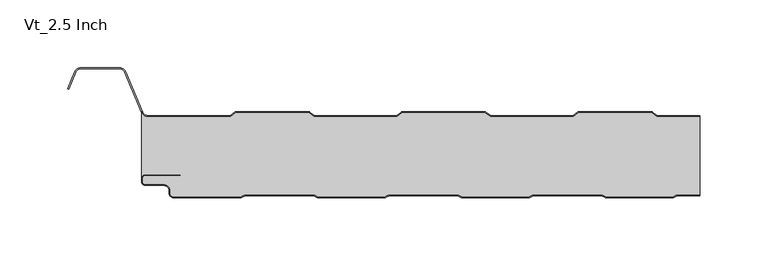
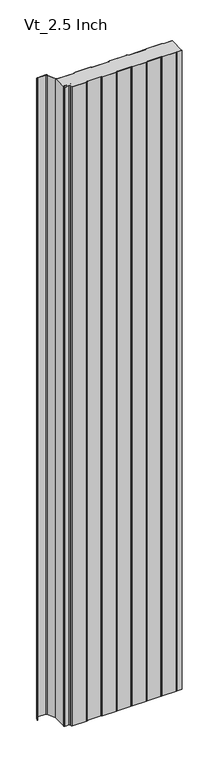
"""IFC4 building model written with IfcOpenShell, lengths in millimetres: plate geometry, AWIP_R18_CP_HR3_Vt_Roof Panel : Vt_2.5 Inch."""

from ifc_helpers import new_model, si_unit, point, frame, frame_2d, origin, origin_with_axes, place, context, project, spatial, polyline, circle_curve, trimmed, segment, composite_curve, outline, extrude, source, transform, mapped, element, save
from ifc_brep_helpers import plane_surface, cylinder_surface, revolved_surface, advanced_brep


def vt_2_5_inch_4b6529dc(model_context):
    return source(origin(), model_context, "Body", "SolidModel", [
        advanced_brep(
        [(221.9999998, 59.9158806, 2400.0), (221.9999998, 2.3, 2400.0), (221.9999998, 2.3, 0.0), (221.9999998, 59.9158806, 0.0), (-186.7572295, 59.9158805, 2400.0), (-191.4327566, 63.6298575, 2400.0), (-191.4327566, 14.0, 2400.0), (-188.41581, 17.0, 2400.0), (-162.474768, 17.0, 2400.0), (-162.474768, 16.2, 2400.0), (-188.41581, 16.2, 2400.0), (-190.61581, 14.0, 2400.0), (-190.61581, 12.0, 2400.0), (-188.41581, 9.8, 2400.0), (-174.8999998, 9.8, 2400.0), (-170.0999998, 5.0, 2400.0), (-170.0999998, 3.0, 2400.0), (-167.8999998, 0.8, 2400.0), (-118.1426773, 0.8, 2400.0), (-117.190856, 0.9968123, 2400.0), (-114.8007568, 2.0293831, 2400.0), (-113.4920024, 2.3, 2400.0), (-65.1079973, 2.3, 2400.0), (-63.7992429, 2.0293831, 2400.0), (-61.4091437, 0.9968123, 2400.0), (-60.4573224, 0.8, 2400.0), (-11.5426773, 0.8, 2400.0), (-10.590856, 0.9968123, 2400.0), (-8.2007568, 2.0293831, 2400.0), (-6.8920024, 2.3, 2400.0), (41.4920027, 2.3, 2400.0), (42.8007571, 2.0293831, 2400.0), (45.1908563, 0.9968123, 2400.0), (46.1426776, 0.8, 2400.0), (95.0573227, 0.8, 2400.0), (96.009144, 0.9968123, 2400.0), (98.3992432, 2.0293831, 2400.0), (99.7079976, 2.3, 2400.0), (148.0920027, 2.3, 2400.0), (149.4007571, 2.0293831, 2400.0), (151.7908563, 0.9968123, 2400.0), (152.7426776, 0.8, 2400.0), (201.6573227, 0.8, 2400.0), (202.609144, 0.9968123, 2400.0), (204.9992432, 2.0293831, 2400.0), (206.3079976, 2.3, 2400.0), (190.5265971, 59.9158806, 2400.0), (189.7652072, 60.1621797, 2400.0), (186.2530727, 62.7000001, 2400.0), (132.0501916, 62.7000001, 2400.0), (128.5380576, 60.1621798, 2400.0), (127.7766677, 59.9158806, 2400.0), (67.2805372, 59.9158806, 2400.0), (66.5191475, 60.1621797, 2400.0), (63.007013, 62.7000001, 2400.0), (1.5462671, 62.7000001, 2400.0), (-1.9658675, 60.1621797, 2400.0), (-2.7272574, 59.9158805, 2400.0), (-63.2233836, 59.9158805, 2400.0), (-63.9847734, 60.1621797, 2400.0), (-67.4969079, 62.7, 2400.0), (-121.6997882, 62.7, 2400.0), (-125.2119228, 60.1621797, 2400.0), (-125.9733126, 59.9158805, 2400.0), (-186.7572295, 59.9158805, 0.0), (-125.9733126, 59.9158805, 0.0), (-125.2119228, 60.1621797, 0.0), (-121.6997882, 62.7, 0.0), (-67.4969079, 62.7, 0.0), (-63.9847734, 60.1621797, 0.0), (-63.2233836, 59.9158805, 0.0), (-2.7272574, 59.9158805, 0.0), (-1.9658675, 60.1621797, 0.0), (1.5462671, 62.7000001, 0.0), (63.007013, 62.7000001, 0.0), (66.5191475, 60.1621797, 0.0), (67.2805372, 59.9158806, 0.0), (127.7766677, 59.9158806, 0.0), (128.5380576, 60.1621798, 0.0), (132.0501916, 62.7000001, 0.0), (186.2530727, 62.7000001, 0.0), (189.7652072, 60.1621797, 0.0), (190.5265971, 59.9158806, 0.0), (206.3079976, 2.3, 0.0), (204.9992432, 2.0293831, 0.0), (202.609144, 0.9968123, 0.0), (201.6573227, 0.8, 0.0), (152.7426776, 0.8, 0.0), (151.7908563, 0.9968123, 0.0), (149.4007571, 2.0293831, 0.0), (148.0920027, 2.3, 0.0), (99.7079976, 2.3, 0.0), (98.3992432, 2.0293831, 0.0), (96.009144, 0.9968123, 0.0), (95.0573227, 0.8, 0.0), (46.1426776, 0.8, 0.0), (45.1908563, 0.9968123, 0.0), (42.8007571, 2.0293831, 0.0), (41.4920027, 2.3, 0.0), (-6.8920024, 2.3, 0.0), (-8.2007568, 2.0293831, 0.0), (-10.590856, 0.9968123, 0.0), (-11.5426773, 0.8, 0.0), (-60.4573224, 0.8, 0.0), (-61.4091437, 0.9968123, 0.0), (-63.7992429, 2.0293831, 0.0), (-65.1079973, 2.3, 0.0), (-113.4920024, 2.3, 0.0), (-114.8007568, 2.0293831, 0.0), (-117.190856, 0.9968123, 0.0), (-118.1426773, 0.8, 0.0), (-167.8999998, 0.8, 0.0), (-170.0999998, 3.0, 0.0), (-170.0999998, 5.0, 0.0), (-174.8999998, 9.8, 0.0), (-188.41581, 9.8, 0.0), (-190.61581, 12.0, 0.0), (-190.61581, 14.0, 0.0), (-188.41581, 16.2, 0.0), (-162.474768, 16.2, 0.0), (-162.474768, 17.0, 0.0), (-188.41581, 17.0, 0.0), (-191.41581, 14.0, 0.0), (-191.4327566, 63.6298575, 0.0)],
        [
            (0, 1),
            (1, 2),
            (2, 3),
            (3, 0),
            (4, 5, circle_curve(frame((-186.7572295, 64.7158804, 2400.0), z_axis=(0.0, 0.0, -1.0), x_axis=(0.0, 1.0, 0.0)), 4.7999999)),
            (5, 6),
            (6, 7, circle_curve(frame((-188.41581, 14.0, 2400.0), z_axis=(0.0, 0.0, -1.0), x_axis=(0.0, 1.0, 0.0)), 3.0)),
            (7, 8),
            (8, 9),
            (9, 10),
            (10, 11, circle_curve(frame((-188.41581, 14.0, 2400.0), z_axis=(0.0, 0.0, 1.0), x_axis=(0.0, 1.0, 0.0)), 2.2)),
            (11, 12),
            (12, 13, circle_curve(frame((-188.41581, 12.0, 2400.0), z_axis=(0.0, 0.0, 1.0), x_axis=(0.0, 1.0, 0.0)), 2.2)),
            (13, 14),
            (14, 15, circle_curve(frame((-174.8999998, 5.0, 2400.0), z_axis=(0.0, 0.0, -1.0), x_axis=(0.0, 1.0, 0.0)), 4.8)),
            (15, 16),
            (16, 17, circle_curve(frame((-167.8999998, 3.0, 2400.0), z_axis=(0.0, 0.0, 1.0), x_axis=(0.0, 1.0, 0.0)), 2.2)),
            (17, 18),
            (18, 19, circle_curve(frame((-118.1426773, 3.2, 2400.0), z_axis=(0.0, 0.0, 1.0), x_axis=(0.0, 1.0, 0.0)), 2.4)),
            (19, 20),
            (20, 21, circle_curve(frame((-113.4920024, -1.0, 2400.0), z_axis=(0.0, 0.0, -1.0), x_axis=(0.0, 1.0, 0.0)), 3.3)),
            (21, 22),
            (22, 23, circle_curve(frame((-65.1079973, -1.0, 2400.0), z_axis=(0.0, 0.0, -1.0), x_axis=(0.0, 1.0, 0.0)), 3.3)),
            (23, 24),
            (24, 25, circle_curve(frame((-60.4573224, 3.2, 2400.0), z_axis=(0.0, 0.0, 1.0), x_axis=(0.0, 1.0, 0.0)), 2.4)),
            (25, 26),
            (26, 27, circle_curve(frame((-11.5426773, 3.2, 2400.0), z_axis=(0.0, 0.0, 1.0), x_axis=(0.0, 1.0, 0.0)), 2.4)),
            (27, 28),
            (28, 29, circle_curve(frame((-6.8920024, -1.0, 2400.0), z_axis=(0.0, 0.0, -1.0), x_axis=(0.0, 1.0, 0.0)), 3.3)),
            (29, 30),
            (30, 31, circle_curve(frame((41.4920027, -1.0, 2400.0), z_axis=(0.0, 0.0, -1.0), x_axis=(0.0, 1.0, 0.0)), 3.3)),
            (31, 32),
            (32, 33, circle_curve(frame((46.1426776, 3.2, 2400.0), z_axis=(0.0, 0.0, 1.0), x_axis=(0.0, 1.0, 0.0)), 2.4)),
            (33, 34),
            (34, 35, circle_curve(frame((95.0573227, 3.2, 2400.0), z_axis=(0.0, 0.0, 1.0), x_axis=(0.0, 1.0, 0.0)), 2.4)),
            (35, 36),
            (36, 37, circle_curve(frame((99.7079976, -1.0, 2400.0), z_axis=(0.0, 0.0, -1.0), x_axis=(0.0, 1.0, 0.0)), 3.3)),
            (37, 38),
            (38, 39, circle_curve(frame((148.0920027, -1.0, 2400.0), z_axis=(0.0, 0.0, -1.0), x_axis=(0.0, 1.0, 0.0)), 3.3)),
            (39, 40),
            (40, 41, circle_curve(frame((152.7426776, 3.2, 2400.0), z_axis=(0.0, 0.0, 1.0), x_axis=(0.0, 1.0, 0.0)), 2.4)),
            (41, 42),
            (42, 43, circle_curve(frame((201.6573227, 3.2, 2400.0), z_axis=(0.0, 0.0, 1.0), x_axis=(0.0, 1.0, 0.0)), 2.4)),
            (43, 44),
            (44, 45, circle_curve(frame((206.3079976, -1.0, 2400.0), z_axis=(0.0, 0.0, -1.0), x_axis=(0.0, 1.0, 0.0)), 3.3)),
            (45, 1),
            (0, 46),
            (46, 47, circle_curve(frame((190.5265971, 61.2158806, 2400.0), z_axis=(0.0, 0.0, -1.0), x_axis=(0.0, 1.0, 0.0)), 1.3)),
            (47, 48),
            (48, 49),
            (49, 50),
            (50, 51, circle_curve(frame((127.7766677, 61.2158806, 2400.0), z_axis=(0.0, 0.0, -1.0), x_axis=(0.0, 1.0, 0.0)), 1.3)),
            (51, 52),
            (52, 53, circle_curve(frame((67.2805372, 61.2158804, 2400.0), z_axis=(0.0, 0.0, -1.0), x_axis=(0.0, 1.0, 0.0)), 1.2999998)),
            (53, 54),
            (54, 55),
            (55, 56),
            (56, 57, circle_curve(frame((-2.7272574, 61.2158805, 2400.0), z_axis=(0.0, 0.0, -1.0), x_axis=(0.0, 1.0, 0.0)), 1.3)),
            (57, 58),
            (58, 59, circle_curve(frame((-63.2233836, 61.2158805, 2400.0), z_axis=(0.0, 0.0, -1.0), x_axis=(0.0, 1.0, 0.0)), 1.3)),
            (59, 60),
            (60, 61),
            (61, 62),
            (62, 63, circle_curve(frame((-125.9733126, 61.2158805, 2400.0), z_axis=(0.0, 0.0, -1.0), x_axis=(0.0, 1.0, 0.0)), 1.3)),
            (63, 4),
            (64, 65),
            (65, 66, circle_curve(frame((-125.9733126, 61.2158805, 0.0), z_axis=(0.0, 0.0, 1.0), x_axis=(0.0, 1.0, 0.0)), 1.3)),
            (66, 67),
            (67, 68),
            (68, 69),
            (69, 70, circle_curve(frame((-63.2233836, 61.2158805, 0.0), z_axis=(0.0, 0.0, 1.0), x_axis=(0.0, 1.0, 0.0)), 1.3)),
            (70, 71),
            (71, 72, circle_curve(frame((-2.7272574, 61.2158805, 0.0), z_axis=(0.0, 0.0, 1.0), x_axis=(0.0, 1.0, 0.0)), 1.3)),
            (72, 73),
            (73, 74),
            (74, 75),
            (75, 76, circle_curve(frame((67.2805372, 61.2158804, 0.0), z_axis=(0.0, 0.0, 1.0), x_axis=(0.0, 1.0, 0.0)), 1.2999998)),
            (76, 77),
            (77, 78, circle_curve(frame((127.7766677, 61.2158806, 0.0), z_axis=(0.0, 0.0, 1.0), x_axis=(0.0, 1.0, 0.0)), 1.3)),
            (78, 79),
            (79, 80),
            (80, 81),
            (81, 82, circle_curve(frame((190.5265971, 61.2158806, 0.0), z_axis=(0.0, 0.0, 1.0), x_axis=(0.0, 1.0, 0.0)), 1.3)),
            (82, 3),
            (2, 83),
            (83, 84, circle_curve(frame((206.3079976, -1.0, 0.0), z_axis=(0.0, 0.0, 1.0), x_axis=(0.0, 1.0, 0.0)), 3.3)),
            (84, 85),
            (85, 86, circle_curve(frame((201.6573227, 3.2, 0.0), z_axis=(0.0, 0.0, -1.0), x_axis=(0.0, 1.0, 0.0)), 2.4)),
            (86, 87),
            (87, 88, circle_curve(frame((152.7426776, 3.2, 0.0), z_axis=(0.0, 0.0, -1.0), x_axis=(0.0, 1.0, 0.0)), 2.4)),
            (88, 89),
            (89, 90, circle_curve(frame((148.0920027, -1.0, 0.0), z_axis=(0.0, 0.0, 1.0), x_axis=(0.0, 1.0, 0.0)), 3.3)),
            (90, 91),
            (91, 92, circle_curve(frame((99.7079976, -1.0, 0.0), z_axis=(0.0, 0.0, 1.0), x_axis=(0.0, 1.0, 0.0)), 3.3)),
            (92, 93),
            (93, 94, circle_curve(frame((95.0573227, 3.2, 0.0), z_axis=(0.0, 0.0, -1.0), x_axis=(0.0, 1.0, 0.0)), 2.4)),
            (94, 95),
            (95, 96, circle_curve(frame((46.1426776, 3.2, 0.0), z_axis=(0.0, 0.0, -1.0), x_axis=(0.0, 1.0, 0.0)), 2.4)),
            (96, 97),
            (97, 98, circle_curve(frame((41.4920027, -1.0, 0.0), z_axis=(0.0, 0.0, 1.0), x_axis=(0.0, 1.0, 0.0)), 3.3)),
            (98, 99),
            (99, 100, circle_curve(frame((-6.8920024, -1.0, 0.0), z_axis=(0.0, 0.0, 1.0), x_axis=(0.0, 1.0, 0.0)), 3.3)),
            (100, 101),
            (101, 102, circle_curve(frame((-11.5426773, 3.2, 0.0), z_axis=(0.0, 0.0, -1.0), x_axis=(0.0, 1.0, 0.0)), 2.4)),
            (102, 103),
            (103, 104, circle_curve(frame((-60.4573224, 3.2, 0.0), z_axis=(0.0, 0.0, -1.0), x_axis=(0.0, 1.0, 0.0)), 2.4)),
            (104, 105),
            (105, 106, circle_curve(frame((-65.1079973, -1.0, 0.0), z_axis=(0.0, 0.0, 1.0), x_axis=(0.0, 1.0, 0.0)), 3.3)),
            (106, 107),
            (107, 108, circle_curve(frame((-113.4920024, -1.0, 0.0), z_axis=(0.0, 0.0, 1.0), x_axis=(0.0, 1.0, 0.0)), 3.3)),
            (108, 109),
            (109, 110, circle_curve(frame((-118.1426773, 3.2, 0.0), z_axis=(0.0, 0.0, -1.0), x_axis=(0.0, 1.0, 0.0)), 2.4)),
            (110, 111),
            (111, 112, circle_curve(frame((-167.8999998, 3.0, 0.0), z_axis=(0.0, 0.0, -1.0), x_axis=(0.0, 1.0, 0.0)), 2.2)),
            (112, 113),
            (113, 114, circle_curve(frame((-174.8999998, 5.0, 0.0), z_axis=(0.0, 0.0, 1.0), x_axis=(0.0, 1.0, 0.0)), 4.8)),
            (114, 115),
            (115, 116, circle_curve(frame((-188.41581, 12.0, 0.0), z_axis=(0.0, 0.0, -1.0), x_axis=(0.0, 1.0, 0.0)), 2.2)),
            (116, 117),
            (117, 118, circle_curve(frame((-188.41581, 14.0, 0.0), z_axis=(0.0, 0.0, -1.0), x_axis=(0.0, 1.0, 0.0)), 2.2)),
            (118, 119),
            (119, 120),
            (120, 121),
            (121, 122, circle_curve(frame((-188.41581, 14.0, 0.0), z_axis=(0.0, 0.0, 1.0), x_axis=(0.0, 1.0, 0.0)), 3.0)),
            (122, 123),
            (123, 64, circle_curve(frame((-186.7572295, 64.7158804, 0.0), z_axis=(0.0, 0.0, 1.0), x_axis=(0.0, 1.0, 0.0)), 4.7999999)),
            (4, 64),
            (123, 5),
            (122, 6),
            (121, 7),
            (120, 8),
            (119, 9),
            (118, 10),
            (117, 11),
            (116, 12),
            (115, 13),
            (114, 14),
            (113, 15),
            (112, 16),
            (111, 17),
            (110, 18),
            (109, 19),
            (108, 20),
            (107, 21),
            (106, 22),
            (105, 23),
            (104, 24),
            (103, 25),
            (102, 26),
            (101, 27),
            (100, 28),
            (99, 29),
            (98, 30),
            (97, 31),
            (96, 32),
            (95, 33),
            (94, 34),
            (93, 35),
            (92, 36),
            (91, 37),
            (90, 38),
            (89, 39),
            (88, 40),
            (87, 41),
            (86, 42),
            (85, 43),
            (84, 44),
            (83, 45),
            (82, 46),
            (81, 47),
            (80, 48),
            (79, 49),
            (78, 50),
            (77, 51),
            (76, 52),
            (75, 53),
            (74, 54),
            (73, 55),
            (72, 56),
            (71, 57),
            (70, 58),
            (69, 59),
            (68, 60),
            (67, 61),
            (66, 62),
            (65, 63),
        ],
        [
            plane_surface(frame((221.9999998, 128.5, 2400.0), z_axis=(1.0, 0.0, 0.0), x_axis=(0.0, 0.0, -1.0))),
            plane_surface(frame((286.0000002, 0.8, 2400.0), z_axis=(0.0, 0.0, 1.0), x_axis=(0.0, 1.0, 0.0))),
            plane_surface(frame((286.0000002, 0.8, 0.0), z_axis=(0.0, 0.0, -1.0), x_axis=(0.0, 1.0, 0.0))),
            revolved_surface(polyline([(-186.7572295, 69.5158803, 0.0), (-186.7572295, 69.5158803, 2400.0)]), (-186.7572295, 64.7158804, 2400.0), (0.0, 0.0, -1.0)),
            plane_surface(frame((-191.4327566, 63.6298575, 2400.0), z_axis=(-1.0, 0.0, 0.0), x_axis=(0.0, 0.0, -1.0))),
            revolved_surface(polyline([(-188.41581, 17.0, 0.0), (-188.41581, 17.0, 2400.0)]), (-188.41581, 14.0, 2400.0), (0.0, 0.0, -1.0)),
            plane_surface(frame((-188.41581, 17.0, 2400.0), z_axis=(0.0, -1.0, 0.0), x_axis=(0.0, 0.0, -1.0))),
            plane_surface(frame((-162.474768, 17.0, 2400.0), z_axis=(-1.0, 0.0, 0.0), x_axis=(0.0, 0.0, -1.0))),
            plane_surface(frame((-162.474768, 16.2, 2400.0), z_axis=(0.0, 1.0, 0.0), x_axis=(0.0, 0.0, -1.0))),
            cylinder_surface(frame((-188.41581, 14.0, 2400.0), z_axis=(0.0, 0.0, 1.0), x_axis=(0.0, 1.0, 0.0)), 2.2),
            plane_surface(frame((-190.61581, 14.0, 2400.0), z_axis=(-1.0, 0.0, 0.0), x_axis=(0.0, 0.0, -1.0))),
            cylinder_surface(frame((-188.41581, 12.0, 2400.0), z_axis=(0.0, 0.0, 1.0), x_axis=(0.0, 1.0, 0.0)), 2.2),
            plane_surface(frame((-188.41581, 9.8, 2400.0), z_axis=(0.0, -1.0, 0.0), x_axis=(0.0, 0.0, -1.0))),
            revolved_surface(polyline([(-174.8999998, 9.8, 0.0), (-174.8999998, 9.8, 2400.0)]), (-174.8999998, 5.0, 2400.0), (0.0, 0.0, -1.0)),
            plane_surface(frame((-170.0999998, 5.0, 2400.0), z_axis=(-1.0, 0.0, 0.0), x_axis=(0.0, 0.0, -1.0))),
            cylinder_surface(frame((-167.8999998, 3.0, 2400.0), z_axis=(0.0, 0.0, 1.0), x_axis=(0.0, 1.0, 0.0)), 2.2),
            plane_surface(frame((-167.8999998, 0.8, 2400.0), z_axis=(0.0, -1.0, 0.0), x_axis=(0.0, 0.0, -1.0))),
            cylinder_surface(frame((-118.1426773, 3.2, 2400.0), z_axis=(0.0, 0.0, 1.0), x_axis=(0.0, 1.0, 0.0)), 2.4),
            plane_surface(frame((-117.190856, 0.9968123, 2400.0), z_axis=(0.39659222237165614, -0.9179948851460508, 0.0), x_axis=(0.0, 0.0, -1.0))),
            revolved_surface(polyline([(-113.4920024, 2.3, 0.0), (-113.4920024, 2.3, 2400.0)]), (-113.4920024, -1.0, 2400.0), (0.0, 0.0, -1.0)),
            plane_surface(frame((-113.4920024, 2.3, 2400.0), z_axis=(0.0, -1.0, 0.0), x_axis=(0.0, 0.0, -1.0))),
            revolved_surface(polyline([(-65.1079973, 2.3, 0.0), (-65.1079973, 2.3, 2400.0)]), (-65.1079973, -1.0, 2400.0), (0.0, 0.0, -1.0)),
            plane_surface(frame((-63.7992429, 2.0293831, 2400.0), z_axis=(-0.396592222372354, -0.9179948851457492, 0.0), x_axis=(0.0, 0.0, -1.0))),
            cylinder_surface(frame((-60.4573224, 3.2, 2400.0), z_axis=(0.0, 0.0, 1.0), x_axis=(0.0, 1.0, 0.0)), 2.4),
            plane_surface(frame((-60.4573224, 0.8, 2400.0), z_axis=(0.0, -1.0, 0.0), x_axis=(0.0, 0.0, -1.0))),
            cylinder_surface(frame((-11.5426773, 3.2, 2400.0), z_axis=(0.0, 0.0, 1.0), x_axis=(0.0, 1.0, 0.0)), 2.4),
            plane_surface(frame((-10.590856, 0.9968123, 2400.0), z_axis=(0.39659222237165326, -0.9179948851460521, 0.0), x_axis=(0.0, 0.0, -1.0))),
            revolved_surface(polyline([(-6.8920024, 2.3, 0.0), (-6.8920024, 2.3, 2400.0)]), (-6.8920024, -1.0, 2400.0), (0.0, 0.0, -1.0)),
            plane_surface(frame((-6.8920024, 2.3, 2400.0), z_axis=(0.0, -1.0, 0.0), x_axis=(0.0, 0.0, -1.0))),
            revolved_surface(polyline([(41.4920027, 2.3, 0.0), (41.4920027, 2.3, 2400.0)]), (41.4920027, -1.0, 2400.0), (0.0, 0.0, -1.0)),
            plane_surface(frame((42.8007571, 2.0293831, 2400.0), z_axis=(-0.39659222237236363, -0.9179948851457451, 0.0), x_axis=(0.0, 0.0, -1.0))),
            cylinder_surface(frame((46.1426776, 3.2, 2400.0), z_axis=(0.0, 0.0, 1.0), x_axis=(0.0, 1.0, 0.0)), 2.4),
            plane_surface(frame((46.1426776, 0.8, 2400.0), z_axis=(0.0, -1.0, 0.0), x_axis=(0.0, 0.0, -1.0))),
            cylinder_surface(frame((95.0573227, 3.2, 2400.0), z_axis=(0.0, 0.0, 1.0), x_axis=(0.0, 1.0, 0.0)), 2.4),
            plane_surface(frame((96.009144, 0.9968123, 2400.0), z_axis=(0.3965922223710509, -0.9179948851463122, 0.0), x_axis=(0.0, 0.0, -1.0))),
            revolved_surface(polyline([(99.7079976, 2.3, 0.0), (99.7079976, 2.3, 2400.0)]), (99.7079976, -1.0, 2400.0), (0.0, 0.0, -1.0)),
            plane_surface(frame((99.7079976, 2.3, 2400.0), z_axis=(0.0, -1.0, 0.0), x_axis=(0.0, 0.0, -1.0))),
            revolved_surface(polyline([(148.0920027, 2.3, 0.0), (148.0920027, 2.3, 2400.0)]), (148.0920027, -1.0, 2400.0), (0.0, 0.0, -1.0)),
            plane_surface(frame((149.4007571, 2.0293831, 2400.0), z_axis=(-0.39659222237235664, -0.9179948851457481, 0.0), x_axis=(0.0, 0.0, -1.0))),
            cylinder_surface(frame((152.7426776, 3.2, 2400.0), z_axis=(0.0, 0.0, 1.0), x_axis=(0.0, 1.0, 0.0)), 2.4),
            plane_surface(frame((152.7426776, 0.8, 2400.0), z_axis=(0.0, -1.0, 0.0), x_axis=(0.0, 0.0, -1.0))),
            cylinder_surface(frame((201.6573227, 3.2, 2400.0), z_axis=(0.0, 0.0, 1.0), x_axis=(0.0, 1.0, 0.0)), 2.4),
            plane_surface(frame((202.609144, 0.9968123, 2400.0), z_axis=(0.39659222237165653, -0.9179948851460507, 0.0), x_axis=(0.0, 0.0, -1.0))),
            revolved_surface(polyline([(206.3079976, 2.3, 0.0), (206.3079976, 2.3, 2400.0)]), (206.3079976, -1.0, 2400.0), (0.0, 0.0, -1.0)),
            plane_surface(frame((206.3079976, 2.3, 2400.0), z_axis=(0.0, -1.0, 0.0), x_axis=(0.0, 0.0, -1.0))),
            plane_surface(frame((251.0227427, 59.9158806, 2400.0), z_axis=(0.0, 1.0, 0.0), x_axis=(0.0, 0.0, -1.0))),
            revolved_surface(polyline([(190.5265971, 62.515880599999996, 0.0), (190.5265971, 62.515880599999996, 2400.0)]), (190.5265971, 61.2158806, 2400.0), (0.0, 0.0, -1.0)),
            plane_surface(frame((189.7652072, 60.1621797, 2400.0), z_axis=(0.5856844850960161, 0.8105391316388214, 0.0), x_axis=(0.0, 0.0, -1.0))),
            plane_surface(frame((186.2530727, 62.7000001, 2400.0), z_axis=(0.0, 1.0, 0.0), x_axis=(0.0, 0.0, -1.0))),
            plane_surface(frame((132.0501916, 62.7000001, 2400.0), z_axis=(-0.585684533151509, 0.8105390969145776, 0.0), x_axis=(0.0, 0.0, -1.0))),
            revolved_surface(polyline([(127.7766677, 62.515880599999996, 0.0), (127.7766677, 62.515880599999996, 2400.0)]), (127.7766677, 61.2158806, 2400.0), (0.0, 0.0, -1.0)),
            plane_surface(frame((127.7766677, 59.9158806, 2400.0), z_axis=(0.0, 1.0, 0.0), x_axis=(0.0, 0.0, -1.0))),
            revolved_surface(polyline([(67.2805372, 62.515880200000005, 0.0), (67.2805372, 62.515880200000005, 2400.0)]), (67.2805372, 61.2158804, 2400.0), (0.0, 0.0, -1.0)),
            plane_surface(frame((66.5191475, 60.1621797, 2400.0), z_axis=(0.5856844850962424, 0.8105391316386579, 0.0), x_axis=(0.0, 0.0, -1.0))),
            plane_surface(frame((63.007013, 62.7000001, 2400.0), z_axis=(0.0, 1.0, 0.0), x_axis=(0.0, 0.0, -1.0))),
            plane_surface(frame((1.5462671, 62.7000001, 2400.0), z_axis=(-0.5856844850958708, 0.8105391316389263, 0.0), x_axis=(0.0, 0.0, -1.0))),
            revolved_surface(polyline([(-2.7272574, 62.515880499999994, 0.0), (-2.7272574, 62.515880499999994, 2400.0)]), (-2.7272574, 61.2158805, 2400.0), (0.0, 0.0, -1.0)),
            plane_surface(frame((-2.7272574, 59.9158805, 2400.0), z_axis=(0.0, 1.0, 0.0), x_axis=(0.0, 0.0, -1.0))),
            revolved_surface(polyline([(-63.2233836, 62.515880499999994, 0.0), (-63.2233836, 62.515880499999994, 2400.0)]), (-63.2233836, 61.2158805, 2400.0), (0.0, 0.0, -1.0)),
            plane_surface(frame((-63.9847734, 60.1621797, 2400.0), z_axis=(0.5856844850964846, 0.8105391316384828, 0.0), x_axis=(0.0, 0.0, -1.0))),
            plane_surface(frame((-67.4969079, 62.7, 2400.0), z_axis=(0.0, 1.0, 0.0), x_axis=(0.0, 0.0, -1.0))),
            plane_surface(frame((-121.6997882, 62.7, 2400.0), z_axis=(-0.5856844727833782, 0.8105391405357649, 0.0), x_axis=(0.0, 0.0, -1.0))),
            revolved_surface(polyline([(-125.9733126, 62.515880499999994, 0.0), (-125.9733126, 62.515880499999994, 2400.0)]), (-125.9733126, 61.2158805, 2400.0), (0.0, 0.0, -1.0)),
            plane_surface(frame((-125.9733126, 59.9158805, 2400.0), z_axis=(0.0, 1.0, 0.0), x_axis=(0.0, 0.0, -1.0))),
        ],
        [
            (0, [[1, 2, 3, 4]]),
            (1, [[5, 6, 7, 8, 9, 10, 11, 12, 13, 14, 15, 16, 17, 18, 19, 20, 21, 22, 23, 24, 25, 26, 27, 28, 29, 30, 31, 32, 33, 34, 35, 36, 37, 38, 39, 40, 41, 42, 43, 44, 45, 46, -1, 47, 48, 49, 50, 51, 52, 53, 54, 55, 56, 57, 58, 59, 60, 61, 62, 63, 64, 65]]),
            (2, [[66, 67, 68, 69, 70, 71, 72, 73, 74, 75, 76, 77, 78, 79, 80, 81, 82, 83, 84, -3, 85, 86, 87, 88, 89, 90, 91, 92, 93, 94, 95, 96, 97, 98, 99, 100, 101, 102, 103, 104, 105, 106, 107, 108, 109, 110, 111, 112, 113, 114, 115, 116, 117, 118, 119, 120, 121, 122, 123, 124, 125, 126]]),
            (3, [[-5, 127, -126, 128]]),
            (4, [[-6, -128, -125, 129]]),
            (5, [[-7, -129, -124, 130]]),
            (6, [[-8, -130, -123, 131]]),
            (7, [[-9, -131, -122, 132]]),
            (8, [[-10, -132, -121, 133]]),
            (9, [[-11, -133, -120, 134]]),
            (10, [[-12, -134, -119, 135]]),
            (11, [[-13, -135, -118, 136]]),
            (12, [[-14, -136, -117, 137]]),
            (13, [[-15, -137, -116, 138]]),
            (14, [[-16, -138, -115, 139]]),
            (15, [[-17, -139, -114, 140]]),
            (16, [[-18, -140, -113, 141]]),
            (17, [[-19, -141, -112, 142]]),
            (18, [[-20, -142, -111, 143]]),
            (19, [[-21, -143, -110, 144]]),
            (20, [[-22, -144, -109, 145]]),
            (21, [[-23, -145, -108, 146]]),
            (22, [[-24, -146, -107, 147]]),
            (23, [[-25, -147, -106, 148]]),
            (24, [[-26, -148, -105, 149]]),
            (25, [[-27, -149, -104, 150]]),
            (26, [[-28, -150, -103, 151]]),
            (27, [[-29, -151, -102, 152]]),
            (28, [[-30, -152, -101, 153]]),
            (29, [[-31, -153, -100, 154]]),
            (30, [[-32, -154, -99, 155]]),
            (31, [[-33, -155, -98, 156]]),
            (32, [[-34, -156, -97, 157]]),
            (33, [[-35, -157, -96, 158]]),
            (34, [[-36, -158, -95, 159]]),
            (35, [[-37, -159, -94, 160]]),
            (36, [[-38, -160, -93, 161]]),
            (37, [[-39, -161, -92, 162]]),
            (38, [[-40, -162, -91, 163]]),
            (39, [[-41, -163, -90, 164]]),
            (40, [[-42, -164, -89, 165]]),
            (41, [[-43, -165, -88, 166]]),
            (42, [[-44, -166, -87, 167]]),
            (43, [[-45, -167, -86, 168]]),
            (44, [[-168, -85, -2, -46]]),
            (45, [[169, -47, -4, -84]]),
            (46, [[-48, -169, -83, 170]]),
            (47, [[-49, -170, -82, 171]]),
            (48, [[-50, -171, -81, 172]]),
            (49, [[-51, -172, -80, 173]]),
            (50, [[-52, -173, -79, 174]]),
            (51, [[-53, -174, -78, 175]]),
            (52, [[-54, -175, -77, 176]]),
            (53, [[-55, -176, -76, 177]]),
            (54, [[-56, -177, -75, 178]]),
            (55, [[-57, -178, -74, 179]]),
            (56, [[-58, -179, -73, 180]]),
            (57, [[-59, -180, -72, 181]]),
            (58, [[-60, -181, -71, 182]]),
            (59, [[-61, -182, -70, 183]]),
            (60, [[-62, -183, -69, 184]]),
            (61, [[-63, -184, -68, 185]]),
            (62, [[-64, -185, -67, 186]]),
            (63, [[-65, -186, -66, -127]]),
        ],
    ),
        extrude(outline(composite_curve([segment(trimmed(circle_curve(frame_2d((206.3079976, -1.0)), 2.5), [point((206.3079976, 1.5))], [point((205.316517, 1.2949872))], True, "CARTESIAN"), True, "CONTINUOUS"), segment(polyline([(205.316517, 1.2949872), (202.9264178, 0.2624164)]), True, "CONTINUOUS"), segment(trimmed(circle_curve(frame_2d((201.6573227, 3.2)), 3.2), [point((202.9264178, 0.2624164))], [point((201.6573227, 0.0))], False, "CARTESIAN"), True, "CONTINUOUS"), segment(polyline([(201.6573227, 0.0), (152.7426776, 0.0)]), True, "CONTINUOUS"), segment(trimmed(circle_curve(frame_2d((152.7426776, 3.2)), 3.2), [point((152.7426776, 0.0))], [point((151.4735825, 0.2624164))], False, "CARTESIAN"), True, "CONTINUOUS"), segment(polyline([(151.4735825, 0.2624164), (149.0834833, 1.2949872)]), True, "CONTINUOUS"), segment(trimmed(circle_curve(frame_2d((148.0920027, -1.0)), 2.5), [point((149.0834833, 1.2949872))], [point((148.0920027, 1.5))], True, "CARTESIAN"), True, "CONTINUOUS"), segment(polyline([(148.0920027, 1.5), (99.7079976, 1.5)]), True, "CONTINUOUS"), segment(trimmed(circle_curve(frame_2d((99.7079976, -1.0)), 2.5), [point((99.7079976, 1.5))], [point((98.716517, 1.2949872))], True, "CARTESIAN"), True, "CONTINUOUS"), segment(polyline([(98.716517, 1.2949872), (96.3264178, 0.2624164)]), True, "CONTINUOUS"), segment(trimmed(circle_curve(frame_2d((95.0573227, 3.2)), 3.2), [point((96.3264178, 0.2624164))], [point((95.0573227, 0.0))], False, "CARTESIAN"), True, "CONTINUOUS"), segment(polyline([(95.0573227, 0.0), (46.1426776, 0.0)]), True, "CONTINUOUS"), segment(trimmed(circle_curve(frame_2d((46.1426776, 3.2)), 3.2), [point((46.1426776, 0.0))], [point((44.8735825, 0.2624164))], False, "CARTESIAN"), True, "CONTINUOUS"), segment(polyline([(44.8735825, 0.2624164), (42.4834833, 1.2949872)]), True, "CONTINUOUS"), segment(trimmed(circle_curve(frame_2d((41.4920027, -1.0)), 2.5), [point((42.4834833, 1.2949872))], [point((41.4920027, 1.5))], True, "CARTESIAN"), True, "CONTINUOUS"), segment(polyline([(41.4920027, 1.5), (-6.8920024, 1.5)]), True, "CONTINUOUS"), segment(trimmed(circle_curve(frame_2d((-6.8920024, -1.0)), 2.5), [point((-6.8920024, 1.5))], [point((-7.883483, 1.2949872))], True, "CARTESIAN"), True, "CONTINUOUS"), segment(polyline([(-7.883483, 1.2949872), (-10.2735822, 0.2624164)]), True, "CONTINUOUS"), segment(trimmed(circle_curve(frame_2d((-11.5426773, 3.2)), 3.2), [point((-10.2735822, 0.2624164))], [point((-11.5426773, 0.0))], False, "CARTESIAN"), True, "CONTINUOUS"), segment(polyline([(-11.5426773, 0.0), (-60.4573224, 0.0)]), True, "CONTINUOUS"), segment(trimmed(circle_curve(frame_2d((-60.4573224, 3.2)), 3.2), [point((-60.4573224, 0.0))], [point((-61.7264175, 0.2624164))], False, "CARTESIAN"), True, "CONTINUOUS"), segment(polyline([(-61.7264175, 0.2624164), (-64.1165167, 1.2949872)]), True, "CONTINUOUS"), segment(trimmed(circle_curve(frame_2d((-65.1079973, -1.0)), 2.5), [point((-64.1165167, 1.2949872))], [point((-65.1079973, 1.5))], True, "CARTESIAN"), True, "CONTINUOUS"), segment(polyline([(-65.1079973, 1.5), (-113.4920024, 1.5)]), True, "CONTINUOUS"), segment(trimmed(circle_curve(frame_2d((-113.4920024, -1.0)), 2.5), [point((-113.4920024, 1.5))], [point((-114.483483, 1.2949872))], True, "CARTESIAN"), True, "CONTINUOUS"), segment(polyline([(-114.483483, 1.2949872), (-116.8735822, 0.2624164)]), True, "CONTINUOUS"), segment(trimmed(circle_curve(frame_2d((-118.1426773, 3.2)), 3.2), [point((-116.8735822, 0.2624164))], [point((-118.1426773, 0.0))], False, "CARTESIAN"), True, "CONTINUOUS"), segment(polyline([(-118.1426773, 0.0), (-167.8999998, 0.0)]), True, "CONTINUOUS"), segment(trimmed(circle_curve(frame_2d((-167.8999998, 3.0)), 3.0), [point((-167.8999998, 0.0))], [point((-170.8999998, 3.0))], False, "CARTESIAN"), True, "CONTINUOUS"), segment(polyline([(-170.8999998, 3.0), (-170.8999998, 5.0)]), True, "CONTINUOUS"), segment(trimmed(circle_curve(frame_2d((-174.8999998, 5.0)), 4.0), [point((-170.8999998, 5.0))], [point((-174.8999998, 9.0))], True, "CARTESIAN"), True, "CONTINUOUS"), segment(polyline([(-174.8999998, 9.0), (-188.41581, 9.0)]), True, "CONTINUOUS"), segment(trimmed(circle_curve(frame_2d((-188.41581, 12.0)), 3.0), [point((-188.41581, 9.0))], [point((-191.41581, 12.0))], False, "CARTESIAN"), True, "CONTINUOUS"), segment(polyline([(-191.41581, 12.0), (-191.41581, 14.0)]), True, "CONTINUOUS"), segment(trimmed(circle_curve(frame_2d((-188.41581, 14.0)), 3.0), [point((-191.41581, 14.0))], [point((-188.41581, 17.0))], False, "CARTESIAN"), True, "CONTINUOUS"), segment(polyline([(-188.41581, 17.0), (-162.474768, 17.0), (-162.474768, 16.2), (-188.41581, 16.2)]), True, "CONTINUOUS"), segment(trimmed(circle_curve(frame_2d((-188.41581, 14.0)), 2.2), [point((-188.41581, 16.2))], [point((-190.61581, 14.0))], True, "CARTESIAN"), True, "CONTINUOUS"), segment(polyline([(-190.61581, 14.0), (-190.61581, 12.0)]), True, "CONTINUOUS"), segment(trimmed(circle_curve(frame_2d((-188.41581, 12.0)), 2.2), [point((-190.61581, 12.0))], [point((-188.41581, 9.8))], True, "CARTESIAN"), True, "CONTINUOUS"), segment(polyline([(-188.41581, 9.8), (-174.8999998, 9.8)]), True, "CONTINUOUS"), segment(trimmed(circle_curve(frame_2d((-174.8999998, 5.0)), 4.8), [point((-174.8999998, 9.8))], [point((-170.0999998, 5.0))], False, "CARTESIAN"), True, "CONTINUOUS"), segment(polyline([(-170.0999998, 5.0), (-170.0999998, 3.0)]), True, "CONTINUOUS"), segment(trimmed(circle_curve(frame_2d((-167.8999998, 3.0)), 2.2), [point((-170.0999998, 3.0))], [point((-167.8999998, 0.8))], True, "CARTESIAN"), True, "CONTINUOUS"), segment(polyline([(-167.8999998, 0.8), (-118.1426773, 0.8)]), True, "CONTINUOUS"), segment(trimmed(circle_curve(frame_2d((-118.1426773, 3.2)), 2.4), [point((-118.1426773, 0.8))], [point((-117.190856, 0.9968123))], True, "CARTESIAN"), True, "CONTINUOUS"), segment(polyline([(-117.190856, 0.9968123), (-114.8007568, 2.0293831)]), True, "CONTINUOUS"), segment(trimmed(circle_curve(frame_2d((-113.4920024, -1.0)), 3.3), [point((-114.8007568, 2.0293831))], [point((-113.4920024, 2.3))], False, "CARTESIAN"), True, "CONTINUOUS"), segment(polyline([(-113.4920024, 2.3), (-65.1079973, 2.3)]), True, "CONTINUOUS"), segment(trimmed(circle_curve(frame_2d((-65.1079973, -1.0)), 3.3), [point((-65.1079973, 2.3))], [point((-63.7992429, 2.0293831))], False, "CARTESIAN"), True, "CONTINUOUS"), segment(polyline([(-63.7992429, 2.0293831), (-61.4091437, 0.9968123)]), True, "CONTINUOUS"), segment(trimmed(circle_curve(frame_2d((-60.4573224, 3.2)), 2.4), [point((-61.4091437, 0.9968123))], [point((-60.4573224, 0.8))], True, "CARTESIAN"), True, "CONTINUOUS"), segment(polyline([(-60.4573224, 0.8), (-11.5426773, 0.8)]), True, "CONTINUOUS"), segment(trimmed(circle_curve(frame_2d((-11.5426773, 3.2)), 2.4), [point((-11.5426773, 0.8))], [point((-10.590856, 0.9968123))], True, "CARTESIAN"), True, "CONTINUOUS"), segment(polyline([(-10.590856, 0.9968123), (-8.2007568, 2.0293831)]), True, "CONTINUOUS"), segment(trimmed(circle_curve(frame_2d((-6.8920024, -1.0)), 3.3), [point((-8.2007568, 2.0293831))], [point((-6.8920024, 2.3))], False, "CARTESIAN"), True, "CONTINUOUS"), segment(polyline([(-6.8920024, 2.3), (41.4920027, 2.3)]), True, "CONTINUOUS"), segment(trimmed(circle_curve(frame_2d((41.4920027, -1.0)), 3.3), [point((41.4920027, 2.3))], [point((42.8007571, 2.0293831))], False, "CARTESIAN"), True, "CONTINUOUS"), segment(polyline([(42.8007571, 2.0293831), (45.1908563, 0.9968123)]), True, "CONTINUOUS"), segment(trimmed(circle_curve(frame_2d((46.1426776, 3.2)), 2.4), [point((45.1908563, 0.9968123))], [point((46.1426776, 0.8))], True, "CARTESIAN"), True, "CONTINUOUS"), segment(polyline([(46.1426776, 0.8), (95.0573227, 0.8)]), True, "CONTINUOUS"), segment(trimmed(circle_curve(frame_2d((95.0573227, 3.2)), 2.4), [point((95.0573227, 0.8))], [point((96.009144, 0.9968123))], True, "CARTESIAN"), True, "CONTINUOUS"), segment(polyline([(96.009144, 0.9968123), (98.3992432, 2.0293831)]), True, "CONTINUOUS"), segment(trimmed(circle_curve(frame_2d((99.7079976, -1.0)), 3.3), [point((98.3992432, 2.0293831))], [point((99.7079976, 2.3))], False, "CARTESIAN"), True, "CONTINUOUS"), segment(polyline([(99.7079976, 2.3), (148.0920027, 2.3)]), True, "CONTINUOUS"), segment(trimmed(circle_curve(frame_2d((148.0920027, -1.0)), 3.3), [point((148.0920027, 2.3))], [point((149.4007571, 2.0293831))], False, "CARTESIAN"), True, "CONTINUOUS"), segment(polyline([(149.4007571, 2.0293831), (151.7908563, 0.9968123)]), True, "CONTINUOUS"), segment(trimmed(circle_curve(frame_2d((152.7426776, 3.2)), 2.4), [point((151.7908563, 0.9968123))], [point((152.7426776, 0.8))], True, "CARTESIAN"), True, "CONTINUOUS"), segment(polyline([(152.7426776, 0.8), (201.6573227, 0.8)]), True, "CONTINUOUS"), segment(trimmed(circle_curve(frame_2d((201.6573227, 3.2)), 2.4), [point((201.6573227, 0.8))], [point((202.609144, 0.9968123))], True, "CARTESIAN"), True, "CONTINUOUS"), segment(polyline([(202.609144, 0.9968123), (204.9992432, 2.0293831)]), True, "CONTINUOUS"), segment(trimmed(circle_curve(frame_2d((206.3079976, -1.0)), 3.3), [point((204.9992432, 2.0293831))], [point((206.3079976, 2.3))], False, "CARTESIAN"), True, "CONTINUOUS"), segment(polyline([(206.3079976, 2.3), (221.9999998, 2.3), (221.9999998, 1.5), (206.3079976, 1.5)]), True, "CONTINUOUS")], self_intersect=False)), origin_with_axes(), (0.0, 0.0, 1.0), 2400.0),
        extrude(outline(composite_curve([segment(trimmed(circle_curve(frame_2d((-125.9733126, 61.2158802)), 1.3), [point((-125.2119228, 60.1621793))], [point((-125.9733126, 59.9158802))], False, "CARTESIAN"), True, "CONTINUOUS"), segment(polyline([(-125.9733126, 59.9158802), (-186.7572295, 59.9158802)]), True, "CONTINUOUS"), segment(trimmed(circle_curve(frame_2d((-186.7572295, 64.7158801)), 4.7999999), [point((-186.7572295, 59.9158802))], [point((-191.1756656, 62.840401))], False, "CARTESIAN"), True, "CONTINUOUS"), segment(polyline([(-191.1756656, 62.840401), (-203.9166809, 92.8569246)]), True, "CONTINUOUS"), segment(trimmed(circle_curve(frame_2d((-207.7828126, 91.2158804)), 4.2), [point((-203.9166809, 92.8569246))], [point((-207.7828126, 95.4158804))], True, "CARTESIAN"), True, "CONTINUOUS"), segment(polyline([(-207.7828126, 95.4158804), (-236.1639047, 95.4158804)]), True, "CONTINUOUS"), segment(trimmed(circle_curve(frame_2d((-236.1639047, 91.2158804)), 4.2), [point((-236.1639047, 95.4158804))], [point((-240.0300377, 92.8569214))], True, "CARTESIAN"), True, "CONTINUOUS"), segment(polyline([(-240.0300377, 92.8569214), (-245.3792622, 80.254669), (-246.1156685, 80.5672482), (-240.766444, 93.1695006)]), True, "CONTINUOUS"), segment(trimmed(circle_curve(frame_2d((-236.1639047, 91.2158804)), 5.0), [point((-240.766444, 93.1695006))], [point((-236.1639047, 96.2158804))], False, "CARTESIAN"), True, "CONTINUOUS"), segment(polyline([(-236.1639047, 96.2158804), (-207.7828126, 96.2158804)]), True, "CONTINUOUS"), segment(trimmed(circle_curve(frame_2d((-207.7828126, 91.2158804)), 5.0), [point((-207.7828126, 96.2158804))], [point((-203.1802749, 93.1695045))], False, "CARTESIAN"), True, "CONTINUOUS"), segment(polyline([(-203.1802749, 93.1695045), (-190.4392594, 63.1529809)]), True, "CONTINUOUS"), segment(trimmed(circle_curve(frame_2d((-186.7572295, 64.7158801)), 3.9999997), [point((-190.4392594, 63.1529809))], [point((-186.7572295, 60.7158804))], True, "CARTESIAN"), True, "CONTINUOUS"), segment(polyline([(-186.7572295, 60.7158804), (-125.8115693, 60.7158804), (-122.3518749, 63.2158081)]), True, "CONTINUOUS"), segment(trimmed(circle_curve(frame_2d((-121.4733482, 61.9999994)), 1.4999999), [point((-122.3518749, 63.2158081))], [point((-121.4733482, 63.4999994))], False, "CARTESIAN"), True, "CONTINUOUS"), segment(polyline([(-121.4733482, 63.4999994), (-67.7243197, 63.4999994)]), True, "CONTINUOUS"), segment(trimmed(circle_curve(frame_2d((-67.7233483, 61.9999997)), 1.5), [point((-67.7243197, 63.4999994))], [point((-66.8448215, 63.2158084))], False, "CARTESIAN"), True, "CONTINUOUS"), segment(polyline([(-66.8448215, 63.2158084), (-63.3851267, 60.7158803), (-2.5655141, 60.7158803), (0.8941803, 63.2158081)]), True, "CONTINUOUS"), segment(trimmed(circle_curve(frame_2d((1.772707, 61.9999994)), 1.5), [point((0.8941803, 63.2158081))], [point((1.772707, 63.4999994))], False, "CARTESIAN"), True, "CONTINUOUS"), segment(polyline([(1.772707, 63.4999994), (62.7796012, 63.4999994)]), True, "CONTINUOUS"), segment(trimmed(circle_curve(frame_2d((62.7805726, 61.9999997)), 1.5), [point((62.7796012, 63.4999994))], [point((63.6590993, 63.2158084))], False, "CARTESIAN"), True, "CONTINUOUS"), segment(polyline([(63.6590993, 63.2158084), (67.1187942, 60.7158803), (127.9384108, 60.7158803), (131.3981054, 63.2158086)]), True, "CONTINUOUS"), segment(trimmed(circle_curve(frame_2d((132.2766324, 61.9999997)), 1.5000003), [point((131.3981054, 63.2158086))], [point((132.2766324, 63.5))], False, "CARTESIAN"), True, "CONTINUOUS"), segment(polyline([(132.2766324, 63.5), (186.0266324, 63.5)]), True, "CONTINUOUS"), segment(trimmed(circle_curve(frame_2d((186.0266324, 61.9999997)), 1.5), [point((186.0266324, 63.5))], [point((186.9051591, 63.2158084))], False, "CARTESIAN"), True, "CONTINUOUS"), segment(polyline([(186.9051591, 63.2158084), (190.3648539, 60.7158801), (221.9999998, 60.7158801), (221.9999998, 59.9158803), (190.5265971, 59.9158803)]), True, "CONTINUOUS"), segment(trimmed(circle_curve(frame_2d((190.5265971, 61.2158803)), 1.3), [point((190.5265971, 59.9158803))], [point((189.7652072, 60.1621794))], False, "CARTESIAN"), True, "CONTINUOUS"), segment(polyline([(189.7652072, 60.1621794), (186.2530727, 62.6999997), (132.0501916, 62.6999997), (128.5380576, 60.1621795)]), True, "CONTINUOUS"), segment(trimmed(circle_curve(frame_2d((127.7766677, 61.2158803)), 1.3), [point((128.5380576, 60.1621795))], [point((127.7766677, 59.9158803))], False, "CARTESIAN"), True, "CONTINUOUS"), segment(polyline([(127.7766677, 59.9158803), (67.2805372, 59.9158803)]), True, "CONTINUOUS"), segment(trimmed(circle_curve(frame_2d((67.2805372, 61.2158801)), 1.2999998), [point((67.2805372, 59.9158803))], [point((66.5191475, 60.1621794))], False, "CARTESIAN"), True, "CONTINUOUS"), segment(polyline([(66.5191475, 60.1621794), (63.007013, 62.6999997), (1.5462671, 62.6999997), (-1.9658675, 60.1621793)]), True, "CONTINUOUS"), segment(trimmed(circle_curve(frame_2d((-2.7272574, 61.2158802)), 1.3), [point((-1.9658675, 60.1621793))], [point((-2.7272574, 59.9158802))], False, "CARTESIAN"), True, "CONTINUOUS"), segment(polyline([(-2.7272574, 59.9158802), (-63.2233836, 59.9158802)]), True, "CONTINUOUS"), segment(trimmed(circle_curve(frame_2d((-63.2233836, 61.2158802)), 1.3), [point((-63.2233836, 59.9158802))], [point((-63.9847734, 60.1621793))], False, "CARTESIAN"), True, "CONTINUOUS"), segment(polyline([(-63.9847734, 60.1621793), (-67.4969079, 62.6999997), (-121.6997882, 62.6999997), (-125.2119228, 60.1621793)]), True, "CONTINUOUS")], self_intersect=False)), origin_with_axes(), (0.0, 0.0, 1.0), 2400.0),
    ])


if __name__ == "__main__":
    model = new_model("IFC4")
    model_context = context("Model", 3, world=origin())
    ifc_project = project(units=[si_unit("LENGTHUNIT", "METRE", prefix="MILLI")], contexts=[model_context])
    site = spatial("IfcSite", under=ifc_project)
    building = spatial("IfcBuilding", under=site)
    placement = place(None, origin())
    vt_2_5_inch_shape = vt_2_5_inch_4b6529dc(model_context)
    element("IfcPlate", 1, ObjectType="AWIP_R18_CP_HR3_Vt_Roof Panel : Vt_2.5 Inch", at=placement, inside=building, context=model_context, shape_type="MappedRepresentation", body=[
        mapped(vt_2_5_inch_shape, transform((0.0, 0.0, 0.0), x_axis=(1.0, 0.0, 0.0), y_axis=(0.0, 1.0, 0.0), z_axis=(0.0, 0.0, 1.0))),
    ])
    save(model, "model.ifc")
